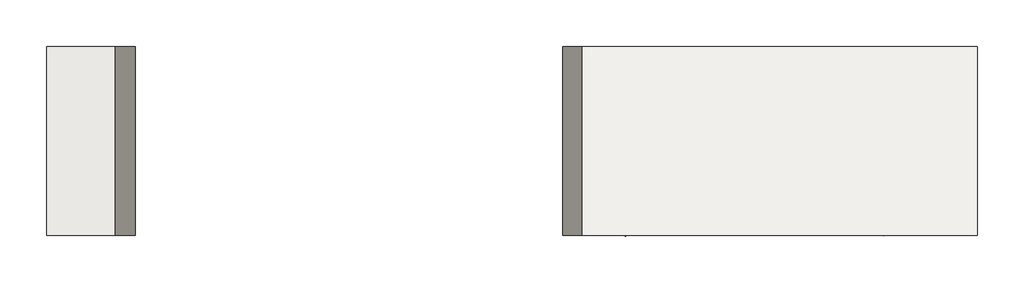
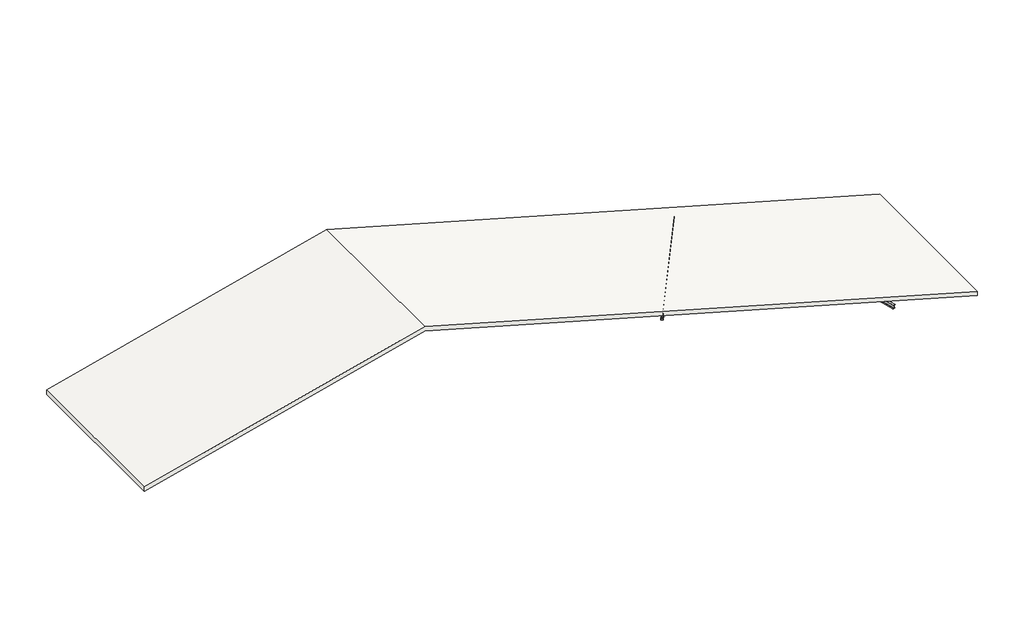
# One storey: 2 beams, 1 slab.
"""IFC4 building model written with IfcOpenShell, lengths in millimetres."""

from ifc_helpers import new_model, si_unit, frame, origin, place, context, project, spatial, polyline, outline, extrude, transform, mapped, element, save
from components import beam_305x165x40ub_2261ccc5, beam_305x165x40ub_2a107009

model = new_model("IFC4")

# Units and contexts
model_context = context("Model", 3, world=origin())
ifc_project = project(units=[si_unit("LENGTHUNIT", "METRE", prefix="MILLI")], contexts=[model_context])

# Site, building, storey
site = spatial("IfcSite", under=ifc_project)
building = spatial("IfcBuilding", under=site)
storey = spatial("IfcBuildingStorey", under=building, Name="樓層 1", Elevation=0.0)

# Beams
placement = place(None, origin())
beam_305x165x40ub_shape = beam_305x165x40ub_2261ccc5(model_context)
element("IfcBeam", 1, ObjectType="UB-通用樑 : 305x165x40UB", at=placement, inside=storey, context=model_context, shape_type="MappedRepresentation", body=[
    mapped(beam_305x165x40ub_shape, transform((37411.6364686, -7767.9010027, -1346.7995966), x_axis=(0.5382586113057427, 0.8288455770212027, -0.1526193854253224), y_axis=(-0.8386705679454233, 0.5446390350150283, 0.0), z_axis=(0.08312247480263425, 0.12799738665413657, 0.9882850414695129))),
])
beam_305x165x40ub_2_shape = beam_305x165x40ub_2a107009(model_context)
element("IfcBeam", 2, ObjectType="UB-通用樑 : 305x165x40UB", at=placement, inside=storey, context=model_context, shape_type="MappedRepresentation", body=[
    mapped(beam_305x165x40ub_2_shape, transform((48292.1976123, -7730.1000481, -4583.58811), x_axis=(-0.3873302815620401, 0.9124929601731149, 0.13165048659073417), y_axis=(-0.9205048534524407, -0.3907311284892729, 0.0), z_axis=(0.051439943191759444, -0.12118491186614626, 0.9912961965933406))),
])

# Slab
element("IfcSlab", 3, ObjectType="混凝土-商用 362mm", at=placement, inside=storey, context=model_context, shape_type="SweptSolid", body=[
    extrude(outline(polyline([(-6862.0, 57431.1222773), (-6500.0, 57431.1222773), (5512.4979459, 14970.4276033), (0.0, -6568.8777227), (-362.0, -6568.8777227), (5150.4979459, 14970.4276033), (-6862.0, 57431.1222773)])), frame((0.0, -14248.4837992, 0.0), z_axis=(0.0, 1.0, 0.0), x_axis=(0.0, 0.0, 1.0)), (0.0, 0.0, 1.0), 13000.0),
])

save(model, "model.ifc")
